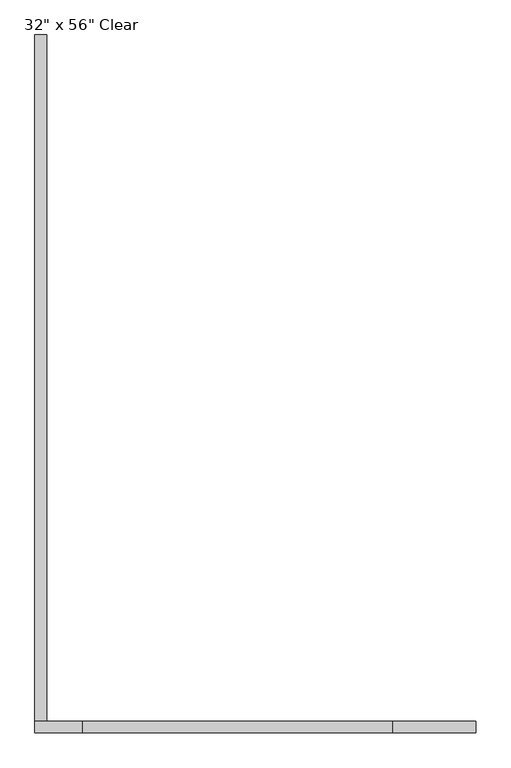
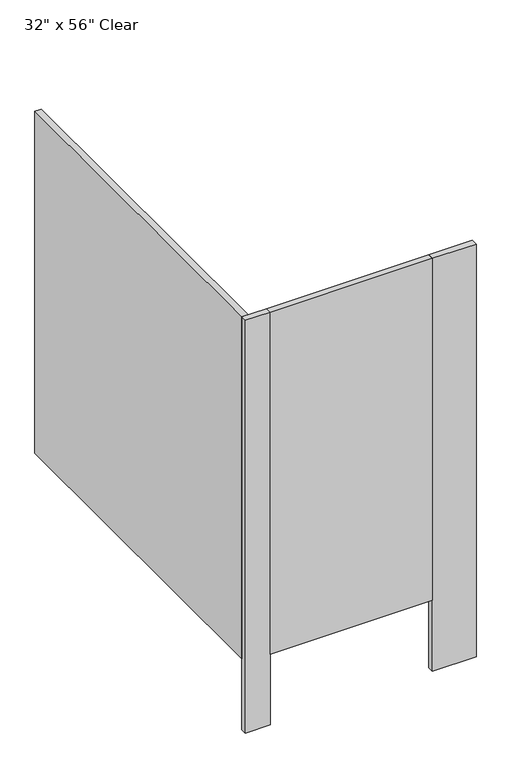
"""IFC4 building model written with IfcOpenShell, lengths in millimetres: proxy geometry."""

import ifcopenshell
import ifcopenshell.guid

model = None  # the IFC model being written
_history = None  # IfcOwnerHistory: only IFC2X3 demands one
_inside = {}  # id of a spatial element -> (the spatial element, [elements in it])
_under = {}  # id of a project, library or spatial element -> (it, [spatial elements below it])
_declared = {}  # id of a project -> (the project, [libraries it declares])
_typed = {}  # id of a type object -> (the type object, [elements of that type])
_made_of = {}  # id of a material, layer set ... -> (it, [elements and type objects made of it])


def new_model(schema):
    """Start an empty IFC model of exactly this schema.

    Asked for "IFC4X3", IfcOpenShell would pick the latest addendum, in which some entities
    have other attributes; the version numbers below select the first issue.
    IFC2X3 requires an IfcOwnerHistory on every rooted entity: one is made here for all.
    """
    global model, _history
    if schema == "IFC4X3":
        model = ifcopenshell.file(schema_version=(4, 3, 0, 0))
    else:
        model = ifcopenshell.file(schema=schema)
    _inside.clear()
    _under.clear()
    _declared.clear()
    _typed.clear()
    _made_of.clear()
    _history = None
    if model.schema == "IFC2X3":
        org = make("IfcOrganization", Name="unknown")
        user = make(
            "IfcPersonAndOrganization",
            ThePerson=make("IfcPerson", FamilyName="unknown"),
            TheOrganization=org,
        )
        app = make(
            "IfcApplication",
            ApplicationDeveloper=org,
            Version="unknown",
            ApplicationFullName="unknown",
            ApplicationIdentifier="unknown",
        )
        _history = make(
            "IfcOwnerHistory",
            OwningUser=user,
            OwningApplication=app,
            ChangeAction="ADDED",
            CreationDate=0,
        )
    return model


def make(cls, **values):
    """One entity of the class cls with the attributes given. An attribute that is None is left unset."""
    return model.create_entity(
        cls, **{name: value for name, value in values.items() if value is not None}
    )


def rooted(cls, **values):
    """An entity with a GlobalId (a new one), such as an element, a storey or a relation."""
    return make(cls, GlobalId=ifcopenshell.guid.new(), OwnerHistory=_history, **values)


def si_unit(unit_type, name, prefix=None):
    """IfcSIUnit, for example si_unit("LENGTHUNIT", "METRE", prefix="MILLI")."""
    return make("IfcSIUnit", UnitType=unit_type, Prefix=prefix, Name=name)


def assignment(units):
    """IfcUnitAssignment: the units of a project."""
    return None if units is None else make("IfcUnitAssignment", Units=units)


def point(xyz):
    """IfcCartesianPoint."""
    return None if xyz is None else make("IfcCartesianPoint", Coordinates=xyz)


def direction(xyz):
    """IfcDirection."""
    return None if xyz is None else make("IfcDirection", DirectionRatios=xyz)


def frame(location, z_axis=None, x_axis=None):
    """IfcAxis2Placement3D, a coordinate frame: its origin and axes. An axis left out is left unset."""
    return make(
        "IfcAxis2Placement3D",
        Location=point(location),
        Axis=direction(z_axis),
        RefDirection=direction(x_axis),
    )


def origin():
    """The frame at (0, 0, 0) with its axes left unset."""
    return frame((0.0, 0.0, 0.0))


def origin_with_axes():
    """The frame at (0, 0, 0) with the z axis (0, 0, 1) and the x axis (1, 0, 0) written out."""
    return frame((0.0, 0.0, 0.0), z_axis=(0.0, 0.0, 1.0), x_axis=(1.0, 0.0, 0.0))


def place(relative_to, where):
    """IfcLocalPlacement: puts the frame where relative to a parent placement (None: the world)."""
    return make(
        "IfcLocalPlacement", PlacementRelTo=relative_to, RelativePlacement=where
    )


def context(
    kind, dimensions, precision=None, world=None, true_north=None, identifier=None
):
    """IfcGeometricRepresentationContext, for example the 3D "Model" context."""
    return make(
        "IfcGeometricRepresentationContext",
        ContextIdentifier=identifier,
        ContextType=kind,
        CoordinateSpaceDimension=dimensions,
        Precision=precision,
        WorldCoordinateSystem=world,
        TrueNorth=true_north,
    )


def project(units=None, contexts=None):
    """IfcProject with its units and contexts."""
    return rooted(
        "IfcProject",
        Name="project",
        RepresentationContexts=contexts,
        UnitsInContext=assignment(units),
    )


def spatial(cls, under=None, at=None, **own):
    """A site, building, storey or space (cls), placed at a placement, below another one or the project."""
    s = rooted(cls, ObjectPlacement=at, **own)
    if under is not None:
        _under.setdefault(under.id(), (under, []))[1].append(s)
    return s


def polyline(points):
    """IfcPolyline through the points."""
    return make("IfcPolyline", Points=[point(p) for p in points])


def outline(outer, holes=None, kind="AREA"):
    """IfcArbitraryClosedProfileDef: a profile drawn as a closed curve; with holes, ...WithVoids."""
    if holes is None:
        return make("IfcArbitraryClosedProfileDef", ProfileType=kind, OuterCurve=outer)
    return make(
        "IfcArbitraryProfileDefWithVoids",
        ProfileType=kind,
        OuterCurve=outer,
        InnerCurves=holes,
    )


def extrude(swept, where, along, depth):
    """IfcExtrudedAreaSolid: the profile swept, set in the frame where, extruded along a direction by depth."""
    return make(
        "IfcExtrudedAreaSolid",
        SweptArea=swept,
        Position=where,
        ExtrudedDirection=direction(along),
        Depth=depth,
    )


def shape(context_of_items, identifier, shape_type, items):
    """IfcShapeRepresentation: the items that make up one representation, for example the "Body"."""
    return make(
        "IfcShapeRepresentation",
        ContextOfItems=context_of_items,
        RepresentationIdentifier=identifier,
        RepresentationType=shape_type,
        Items=items,
    )


def source(mapping_origin, context_of_items, identifier, shape_type, items):
    """IfcRepresentationMap: a shape defined once, which mapped items show again and again."""
    return make(
        "IfcRepresentationMap",
        MappingOrigin=mapping_origin,
        MappedRepresentation=shape(context_of_items, identifier, shape_type, items),
    )


def transform(
    local_origin,
    x_axis=None,
    y_axis=None,
    z_axis=None,
    scale=None,
    scale2=None,
    scale3=None,
    uniform=True,
):
    """IfcCartesianTransformationOperator3D, or its non-uniform kind. x_axis, y_axis, z_axis: its Axis1, 2, 3."""
    if uniform:
        return make(
            "IfcCartesianTransformationOperator3D",
            Axis1=direction(x_axis),
            Axis2=direction(y_axis),
            LocalOrigin=point(local_origin),
            Scale=scale,
            Axis3=direction(z_axis),
        )
    return make(
        "IfcCartesianTransformationOperator3DnonUniform",
        Axis1=direction(x_axis),
        Axis2=direction(y_axis),
        LocalOrigin=point(local_origin),
        Scale=scale,
        Axis3=direction(z_axis),
        Scale2=scale2,
        Scale3=scale3,
    )


def mapped(mapping_source, mapping_target):
    """IfcMappedItem: shows the shape of a source again, moved by a transform."""
    return make(
        "IfcMappedItem", MappingSource=mapping_source, MappingTarget=mapping_target
    )


def made_of(thing, what):
    """Note that an element or type object is made of a material, layer set ...; save() writes the relation."""
    if what is not None:
        _made_of.setdefault(what.id(), (what, []))[1].append(thing)
    return thing


def element(
    cls,
    number,
    at=None,
    inside=None,
    cuts=None,
    type_object=None,
    material=None,
    context=None,
    identifier="Body",
    shape_type=None,
    held_by="IfcProductDefinitionShape",
    body=None,
    shapes=None,
    **own,
):
    """One element of the class cls, such as IfcWall. Its Tag is "e" and its number.

    at: its placement. inside: the storey or other place that contains it. cuts: it is an
    opening in that element (IfcRelVoidsElement). A single representation is given by context,
    identifier, shape_type and body (its items); several are given by shapes. held_by: the class
    of the entity that holds the representations. save() writes the other relations.
    """
    e = rooted(cls, Tag="e%d" % number, ObjectPlacement=at, **own)
    if body is not None:
        shapes = [shape(context, identifier, shape_type, body)]
    if shapes is not None:
        e.Representation = make(held_by, Representations=shapes)
    if inside is not None:
        _inside.setdefault(inside.id(), (inside, []))[1].append(e)
    if cuts is not None:
        rooted(
            "IfcRelVoidsElement", RelatingBuildingElement=cuts, RelatedOpeningElement=e
        )
    if type_object is not None:
        _typed.setdefault(type_object.id(), (type_object, []))[1].append(e)
    return made_of(e, material)


def aggregate(whole, parts):
    """IfcRelAggregates: a whole, such as a stair, and the parts it consists of."""
    return rooted("IfcRelAggregates", RelatingObject=whole, RelatedObjects=parts)


def save(model, path):
    """Write the relations noted so far, then the file.

    IfcRelAggregates (storeys below a building ...), IfcRelContainedInSpatialStructure (elements
    in a storey), IfcRelDefinesByType, IfcRelAssociatesMaterial and IfcRelDeclares: one each for
    every whole, place, type object, material and project.
    """
    for whole, parts in _under.values():
        aggregate(whole, parts)
    for where, things in _inside.values():
        rooted(
            "IfcRelContainedInSpatialStructure",
            RelatedElements=things,
            RelatingStructure=where,
        )
    for kind, things in _typed.values():
        rooted("IfcRelDefinesByType", RelatedObjects=things, RelatingType=kind)
    for what, things in _made_of.values():
        rooted("IfcRelAssociatesMaterial", RelatedObjects=things, RelatingMaterial=what)
    for by, libraries in _declared.values():
        rooted("IfcRelDeclares", RelatingContext=by, RelatedDefinitions=libraries)
    model.write(path)


def proxy_90ccbdc6(model_context):
    return source(origin(), model_context, "Body", "SweptSolid", [
        extrude(outline(polyline([(684.3031538, -1549.4), (23.9031538, -1549.4), (23.9031538, -1524.0), (684.3031538, -1524.0), (684.3031538, -1549.4)])), frame((0.0, 0.0, 304.8), z_axis=(0.0, 0.0, 1.0), x_axis=(1.0, 0.0, 0.0)), (0.0, 0.0, 1.0), 1473.2),
        extrude(outline(polyline([(23.9031538, -1549.4), (-77.6968462, -1549.4), (-77.6968462, -1524.0), (23.9031538, -1524.0), (23.9031538, -1549.4)])), origin_with_axes(), (0.0, 0.0, 1.0), 1778.0),
        extrude(outline(polyline([(862.1031538, -1549.4), (684.3031538, -1549.4), (684.3031538, -1524.0), (862.1031538, -1524.0), (862.1031538, -1549.4)])), origin_with_axes(), (0.0, 0.0, 1.0), 1778.0),
        extrude(outline(polyline([(-77.6968462, -1524.0), (-77.6968462, -63.5), (-52.2968462, -63.5), (-52.2968462, -1524.0), (-77.6968462, -1524.0)])), frame((0.0, 0.0, 304.8), z_axis=(0.0, 0.0, 1.0), x_axis=(1.0, 0.0, 0.0)), (0.0, 0.0, 1.0), 1473.2),
    ])


if __name__ == "__main__":
    model = new_model("IFC4")
    model_context = context("Model", 3, world=origin())
    ifc_project = project(units=[si_unit("LENGTHUNIT", "METRE", prefix="MILLI")], contexts=[model_context])
    site = spatial("IfcSite", under=ifc_project)
    building = spatial("IfcBuilding", under=site)
    placement = place(None, origin())
    proxy_shape = proxy_90ccbdc6(model_context)
    element("IfcBuildingElementProxy", 1, Name="Toilet Stall-3D w Toilet : 32\" x 56\" Clear", ObjectType="Toilet Stall-3D w Toilet : 32\" x 56\" Clear", at=placement, inside=building, context=model_context, shape_type="MappedRepresentation", body=[
        mapped(proxy_shape, transform((0.0, 0.0, 0.0), x_axis=(1.0, 0.0, 0.0), y_axis=(0.0, 1.0, 0.0), z_axis=(0.0, 0.0, 1.0))),
    ])
    save(model, "model.ifc")
